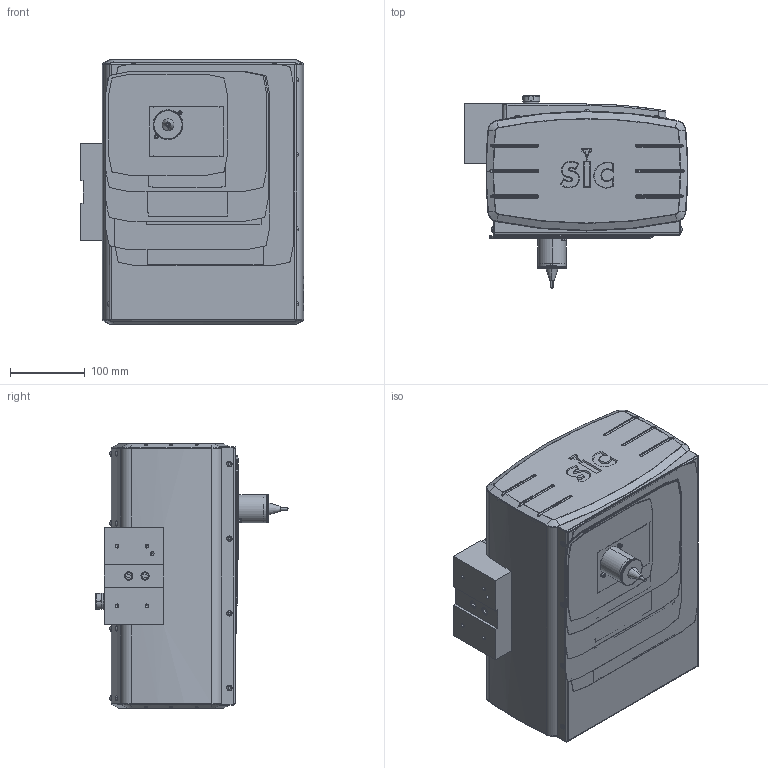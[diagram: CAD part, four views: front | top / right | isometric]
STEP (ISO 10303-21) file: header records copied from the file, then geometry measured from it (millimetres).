
FILE_DESCRIPTION (( 'STEP AP203' ), '1' );
FILE_NAME ('i 141.STEP', '2008-12-09T15:06:53', ( ' ' ), ( ' ' ), 'SwSTEP 2.0', 'SolidWorks 2008', '' );
FILE_SCHEMA (( 'CONFIG_CONTROL_DESIGN' ));
Length unit declared in the file: millimetre
Products named in the file (1): i 141
Bounding box: 299.26 x 259.7 x 354 mm (x, y, z)
Volume: 2115084.7 mm3; surface area: 1155561.1 mm2
Topology: 54 solids, 54 shells, 3520 faces, 8988 edges, 5629 vertices
Faces by surface type: cylinder 1404, plane 1076, bspline 400, cone 273, torus 205, sphere 162
Entity records: 126405 total; most frequent: CARTESIAN_POINT 42313, DIRECTION 17930, ORIENTED_EDGE 17764, EDGE_CURVE 8882, AXIS2_PLACEMENT_3D 7185, VERTEX_POINT 5591, CIRCLE 4064, EDGE_LOOP 3797
